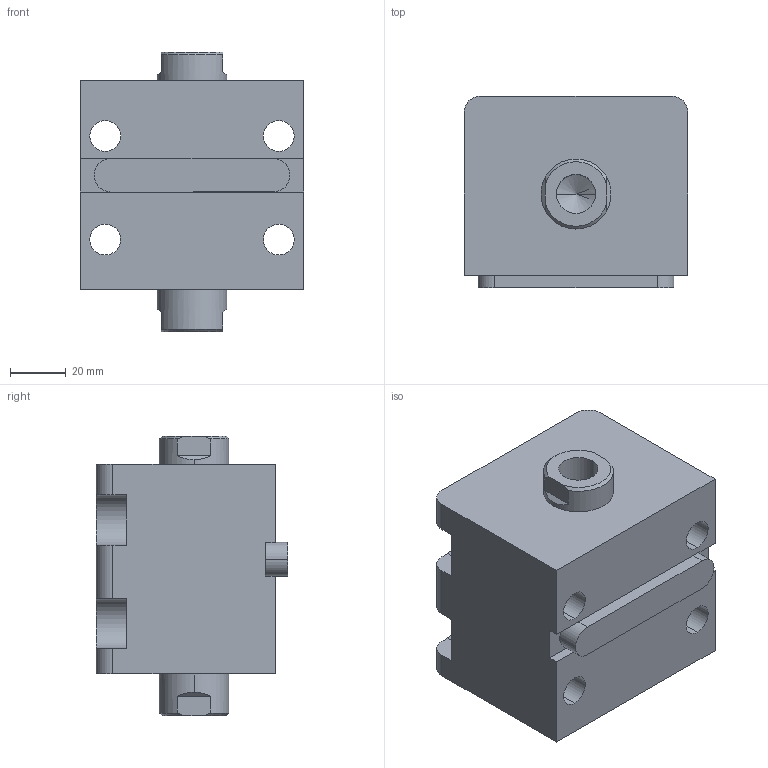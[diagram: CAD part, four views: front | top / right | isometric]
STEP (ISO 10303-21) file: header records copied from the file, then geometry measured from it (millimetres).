
FILE_DESCRIPTION (( 'STEP AP203' ), '1' );
FILE_NAME ('HTB-LW40-5N.STEP', '2019-10-09T07:52:48', ( '微软用户' ), ( '微软中国' ), 'SwSTEP 2.0', 'SolidWorks 2012', '' );
FILE_SCHEMA (( 'CONFIG_CONTROL_DESIGN' ));
Length unit declared in the file: millimetre
Products named in the file (4): HTB-LW40-5N; HTB-LA40-瑩; HTB-LW40-5N活塞杆; HTB-LW40-5掛极
Assembly tree (3 placements, depth 2):
  HTB-LW40-5N
    HTB-LW40-5掛极
    HTB-LW40-5N活塞杆
    HTB-LA40-瑩
Bounding box: 80 x 68.5 x 100 mm (x, y, z)
Volume: 352252.6 mm3; surface area: 63826 mm2
Topology: 3 solids, 3 shells, 105 faces, 261 edges, 168 vertices
Faces by surface type: plane 44, cylinder 41, cone 12, torus 8
Entity records: 3567 total; most frequent: CARTESIAN_POINT 588, DIRECTION 573, ORIENTED_EDGE 514, EDGE_CURVE 257, AXIS2_PLACEMENT_3D 221, VERTEX_POINT 168, VECTOR 131, LINE 131
